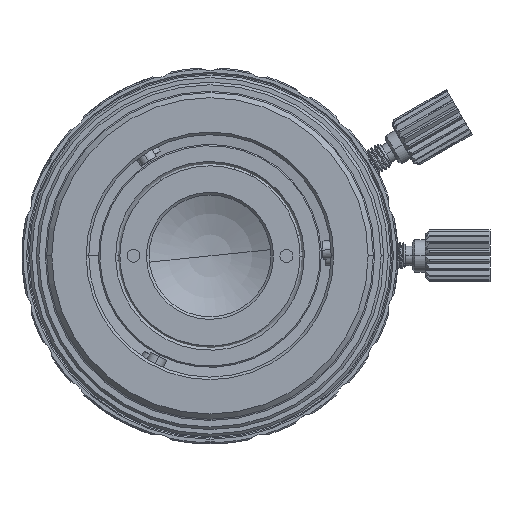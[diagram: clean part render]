
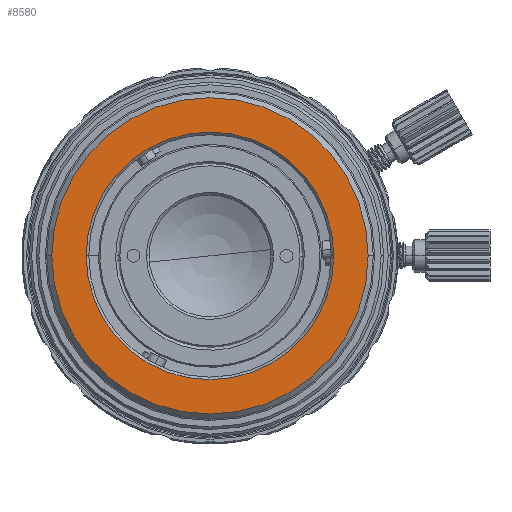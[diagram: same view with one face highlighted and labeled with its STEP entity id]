
A CAD part, front view. The second image highlights one B-rep face of the part: STEP entity #8580.
In plain terms, the highlighted planar face has unit normal (0, -1, 0).
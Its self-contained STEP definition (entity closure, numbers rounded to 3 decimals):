
#7345=CARTESIAN_POINT('',(0.,-5.492,0.));
#7346=DIRECTION('',(0.,1.,0.));
#7347=DIRECTION('',(1.,0.,0.));
#7348=AXIS2_PLACEMENT_3D('',#7345,#7346,#7347);
#7354=CARTESIAN_POINT('',(0.,-5.492,0.));
#7355=DIRECTION('',(0.,-1.,0.));
#7356=DIRECTION('',(1.,0.,0.));
#7357=AXIS2_PLACEMENT_3D('',#7354,#7355,#7356);
#7363=CARTESIAN_POINT('',(0.,-5.492,0.));
#7364=DIRECTION('',(0.,1.,0.));
#7365=DIRECTION('',(1.,0.,0.));
#7366=AXIS2_PLACEMENT_3D('',#7363,#7364,#7365);
#7368=CARTESIAN_POINT('',(0.,-5.492,0.));
#7369=DIRECTION('',(0.,1.,0.));
#7370=DIRECTION('',(-1.,0.,0.));
#7371=AXIS2_PLACEMENT_3D('',#7368,#7369,#7370);
#7576=CARTESIAN_POINT('',(12.2,-5.492,0.));
#7578=VERTEX_POINT('',#7576);
#7610=CARTESIAN_POINT('',(-12.2,-5.492,0.));
#7612=VERTEX_POINT('',#7610);
#7672=CARTESIAN_POINT('',(9.55,-5.492,0.));
#7673=CARTESIAN_POINT('',(-9.55,-5.492,0.));
#7674=VERTEX_POINT('',#7672);
#7675=VERTEX_POINT('',#7673);
#8565=CARTESIAN_POINT('',(0.,-5.492,0.));
#8566=DIRECTION('',(0.,1.,0.));
#8567=DIRECTION('',(1.,0.,0.));
#8568=AXIS2_PLACEMENT_3D('',#8565,#8566,#8567);
#8569=PLANE('',#8568);
#8570=ORIENTED_EDGE('',*,*,#8558,.F.);
#8571=ORIENTED_EDGE('',*,*,#8547,.T.);
#8572=EDGE_LOOP('',(#8570,#8571));
#8573=FACE_OUTER_BOUND('',#8572,.F.);
#8575=ORIENTED_EDGE('',*,*,#8574,.F.);
#8577=ORIENTED_EDGE('',*,*,#8576,.F.);
#8578=EDGE_LOOP('',(#8575,#8577));
#8579=FACE_BOUND('',#8578,.F.);
#8580=ADVANCED_FACE('',(#8573,#8579),#8569,.F.);
#7349=CIRCLE('',#7348,12.2);
#7358=CIRCLE('',#7357,12.2);
#7367=CIRCLE('',#7366,9.55);
#7372=CIRCLE('',#7371,9.55);
#8547=EDGE_CURVE('',#7578,#7612,#7349,.T.);
#8558=EDGE_CURVE('',#7578,#7612,#7358,.T.);
#8574=EDGE_CURVE('',#7674,#7675,#7367,.T.);
#8576=EDGE_CURVE('',#7675,#7674,#7372,.T.);
